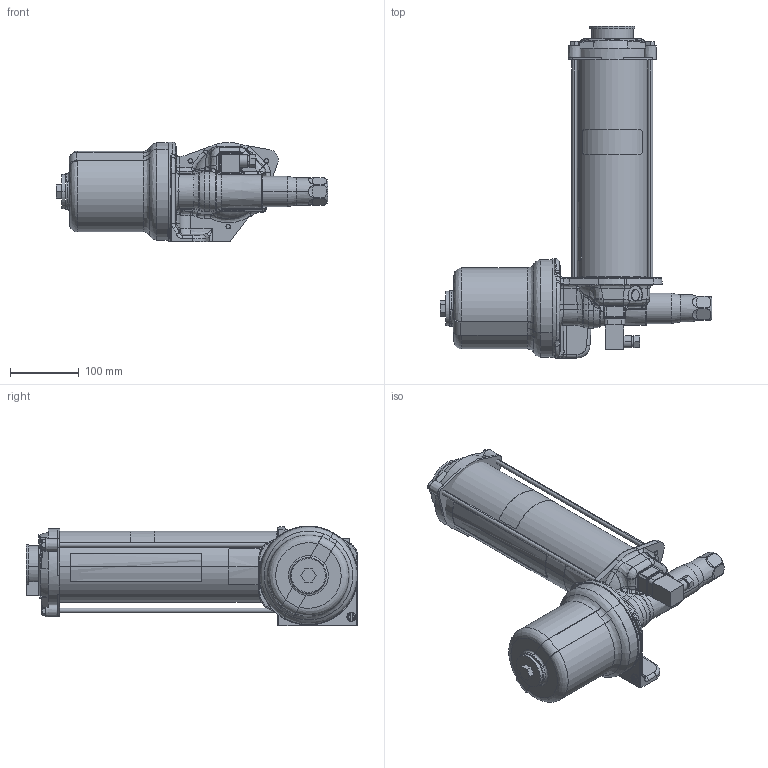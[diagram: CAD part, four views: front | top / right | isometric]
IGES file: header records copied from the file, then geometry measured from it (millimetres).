
Start section:  PTC IGES file: 17c752-en-p.igs
Global section: file name: 17c752-en-p.igs; native system: Creo Parametric by PTC Inc.; preprocessor: 2023424; author: qtmwp1; organization: Unknown; date: 20240322.095227; units: inch
Bounding box: 393.59 x 481.1 x 144.87 mm (x, y, z)
Surface area: 383626.2 mm2 (no closed solid volume)
Topology: 0 solids, 0 shells, 631 faces, 3165 edges, 3165 vertices
Faces by surface type: bspline 384, revolution 247
